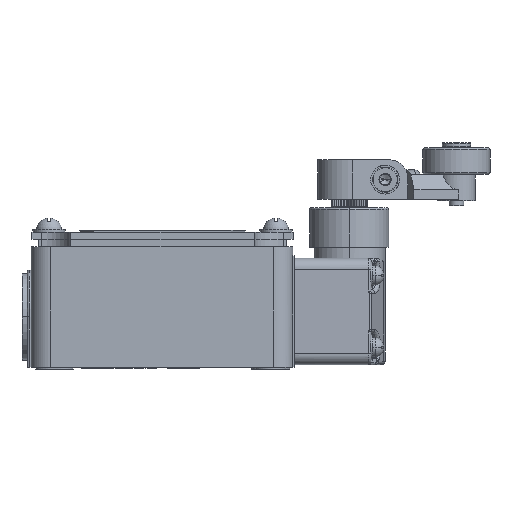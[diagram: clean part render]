
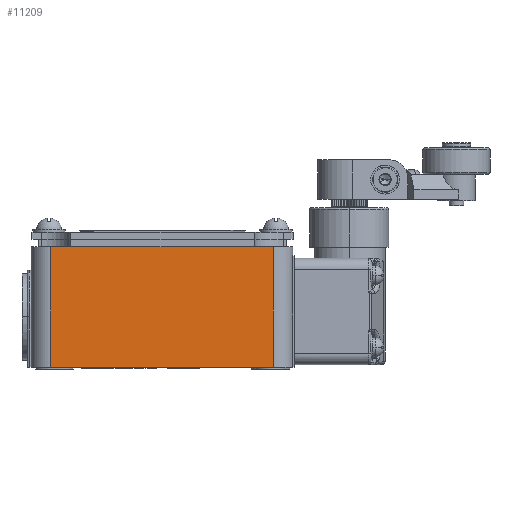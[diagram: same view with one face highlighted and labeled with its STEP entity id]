
A CAD part, front view. The second image highlights one B-rep face of the part: STEP entity #11209.
In plain terms, the highlighted planar face has unit normal (0, -1, 0.007).
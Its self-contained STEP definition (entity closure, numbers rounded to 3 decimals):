
#143=CARTESIAN_POINT('',(-28.,-20.,0.));
#153=DIRECTION('',(1.,0.,0.));
#154=VECTOR('',#153,61.7);
#155=CARTESIAN_POINT('',(-28.,-20.,0.));
#156=LINE('',#155,#154);
#163=CARTESIAN_POINT('',(33.7,-20.,0.));
#3719=CARTESIAN_POINT('',(-28.,-19.766,33.5));
#3753=CARTESIAN_POINT('',(33.7,-19.766,33.5));
#3763=DIRECTION('',(1.,0.,0.));
#3764=VECTOR('',#3763,61.7);
#3765=CARTESIAN_POINT('',(-28.,-19.766,33.5));
#3766=LINE('',#3765,#3764);
#3843=DIRECTION('',(0.,-0.007,-1.));
#3844=VECTOR('',#3843,33.501);
#3845=CARTESIAN_POINT('',(-28.,-19.766,33.5));
#3846=LINE('',#3845,#3844);
#3847=DIRECTION('',(0.,0.007,1.));
#3848=VECTOR('',#3847,33.501);
#3849=CARTESIAN_POINT('',(33.7,-20.,0.));
#3850=LINE('',#3849,#3848);
#5921=VERTEX_POINT('',#3753);
#5926=VERTEX_POINT('',#163);
#5936=VERTEX_POINT('',#143);
#5940=VERTEX_POINT('',#3719);
#11198=CARTESIAN_POINT('',(-35.577,-20.,0.));
#11199=DIRECTION('',(0.,-1.,0.007));
#11200=DIRECTION('',(1.,0.,0.));
#11201=AXIS2_PLACEMENT_3D('',#11198,#11199,#11200);
#11202=PLANE('',#11201);
#11203=ORIENTED_EDGE('',*,*,#10762,.F.);
#11204=ORIENTED_EDGE('',*,*,#11149,.T.);
#11205=ORIENTED_EDGE('',*,*,#11132,.F.);
#11206=ORIENTED_EDGE('',*,*,#6248,.F.);
#11207=EDGE_LOOP('',(#11203,#11204,#11205,#11206));
#11208=FACE_OUTER_BOUND('',#11207,.F.);
#11209=ADVANCED_FACE('',(#11208),#11202,.T.);
#6248=EDGE_CURVE('',#5936,#5926,#156,.T.);
#10762=EDGE_CURVE('',#5940,#5936,#3846,.T.);
#11132=EDGE_CURVE('',#5926,#5921,#3850,.T.);
#11149=EDGE_CURVE('',#5940,#5921,#3766,.T.);
